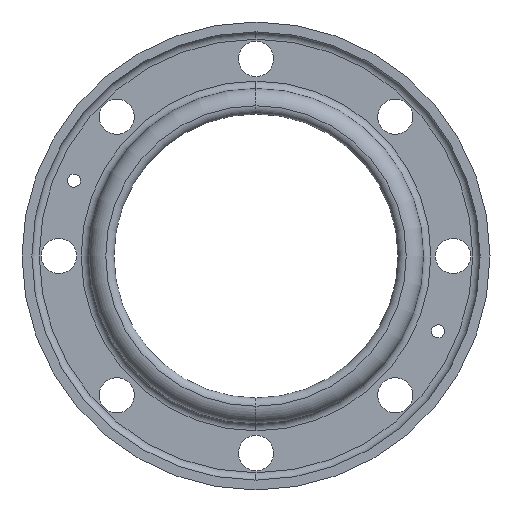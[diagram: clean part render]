
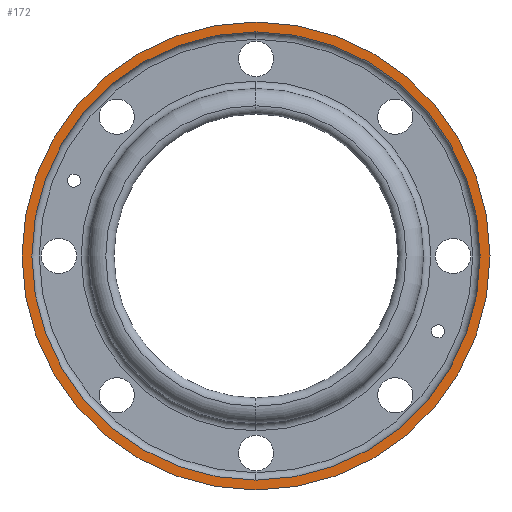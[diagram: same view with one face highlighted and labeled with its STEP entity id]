
A CAD part, front view. The second image highlights one B-rep face of the part: STEP entity #172.
In plain terms, the highlighted planar face has unit normal (0, -1, 0).
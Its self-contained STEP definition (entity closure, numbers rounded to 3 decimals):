
#172=ADVANCED_FACE('',(#348,#349),#350,.T.);
#348=FACE_OUTER_BOUND('',#531,.T.);
#349=FACE_BOUND('',#532,.T.);
#350=PLANE('',#533);
#531=EDGE_LOOP('',(#913,#914));
#532=EDGE_LOOP('',(#915,#916));
#533=AXIS2_PLACEMENT_3D('',#917,#918,#919);
#913=ORIENTED_EDGE('',*,*,#1096,.F.);
#914=ORIENTED_EDGE('',*,*,#1207,.F.);
#915=ORIENTED_EDGE('',*,*,#1205,.T.);
#916=ORIENTED_EDGE('',*,*,#1101,.T.);
#917=CARTESIAN_POINT('',(-353.15,68.151,0.0));
#918=DIRECTION('',(0.0,-1.0,-0.0));
#919=DIRECTION('',(1.0,0.0,0.0));
#1096=EDGE_CURVE('',#1313,#1316,#1317,.T.);
#1101=EDGE_CURVE('',#1324,#1321,#1325,.T.);
#1205=EDGE_CURVE('',#1321,#1324,#1479,.T.);
#1207=EDGE_CURVE('',#1316,#1313,#1481,.T.);
#1313=VERTEX_POINT('',#1596);
#1316=VERTEX_POINT('',#1600);
#1317=CIRCLE('',#1601,142.5);
#1321=VERTEX_POINT('',#1606);
#1324=VERTEX_POINT('',#1610);
#1325=CIRCLE('',#1611,136.5);
#1479=CIRCLE('',#1786,136.5);
#1481=CIRCLE('',#1788,142.5);
#1596=CARTESIAN_POINT('',(-356.15,68.151,0.0));
#1600=CARTESIAN_POINT('',(-71.15,68.151,0.));
#1601=AXIS2_PLACEMENT_3D('',#1920,#1921,#1922);
#1606=CARTESIAN_POINT('',(-350.15,68.151,0.0));
#1610=CARTESIAN_POINT('',(-77.15,68.151,0.));
#1611=AXIS2_PLACEMENT_3D('',#1928,#1929,#1930);
#1786=AXIS2_PLACEMENT_3D('',#2120,#2121,#2122);
#1788=AXIS2_PLACEMENT_3D('',#2123,#2124,#2125);
#1920=CARTESIAN_POINT('',(-213.65,68.151,0.0));
#1921=DIRECTION('',(0.0,1.0,0.0));
#1922=DIRECTION('',(-1.0,0.0,0.0));
#1928=CARTESIAN_POINT('',(-213.65,68.151,0.0));
#1929=DIRECTION('',(0.0,1.0,0.0));
#1930=DIRECTION('',(-1.0,0.0,0.0));
#2120=CARTESIAN_POINT('',(-213.65,68.151,0.0));
#2121=DIRECTION('',(0.0,1.0,0.0));
#2122=DIRECTION('',(-1.0,0.0,0.0));
#2123=CARTESIAN_POINT('',(-213.65,68.151,0.0));
#2124=DIRECTION('',(0.0,1.0,0.0));
#2125=DIRECTION('',(-1.0,0.0,0.0));
